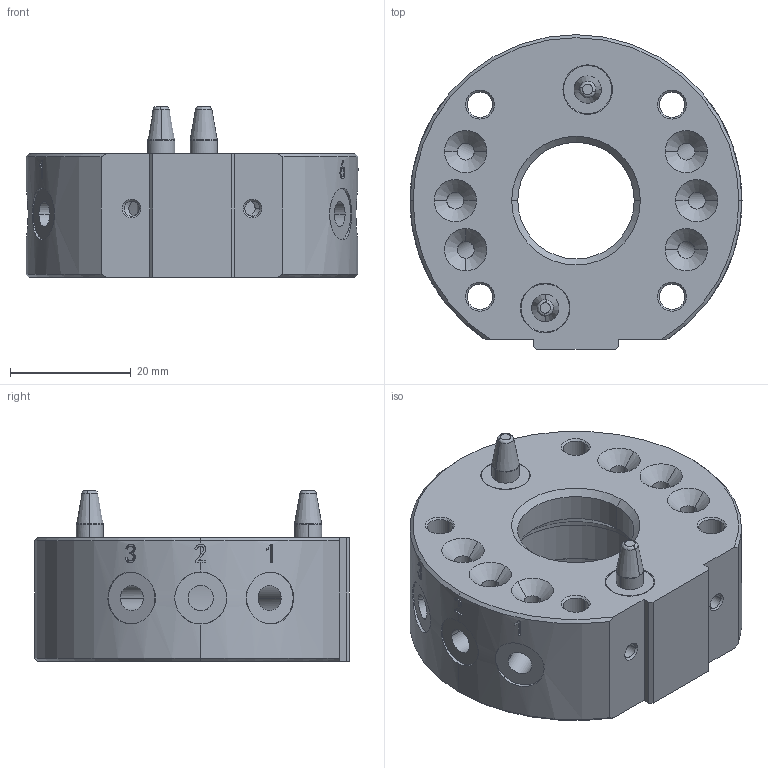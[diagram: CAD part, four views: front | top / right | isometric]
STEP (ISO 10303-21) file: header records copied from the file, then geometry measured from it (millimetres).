
FILE_DESCRIPTION (( 'STEP AP203' ), '1' );
FILE_NAME ('QCA-15G.STEP', '2024-03-19T05:26:02', ( '微软用户' ), ( '微软中国' ), 'SwSTEP 2.0', 'SolidWorks 2018', '' );
FILE_SCHEMA (( 'CONFIG_CONTROL_DESIGN' ));
Length unit declared in the file: millimetre
Products named in the file (1): QCA-15G
Bounding box: 55 x 52.1 x 28.3 mm (x, y, z)
Volume: 35921.7 mm3; surface area: 12085.9 mm2
Topology: 1 solids, 7 shells, 342 faces, 842 edges, 536 vertices
Faces by surface type: cylinder 122, plane 108, cone 81, bspline 31
Entity records: 13269 total; most frequent: CARTESIAN_POINT 5171, ORIENTED_EDGE 1672, DIRECTION 1659, EDGE_CURVE 836, AXIS2_PLACEMENT_3D 644, VERTEX_POINT 536, EDGE_LOOP 400, VECTOR 371
